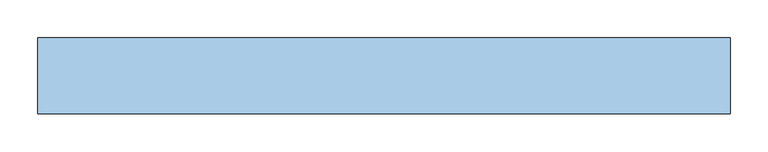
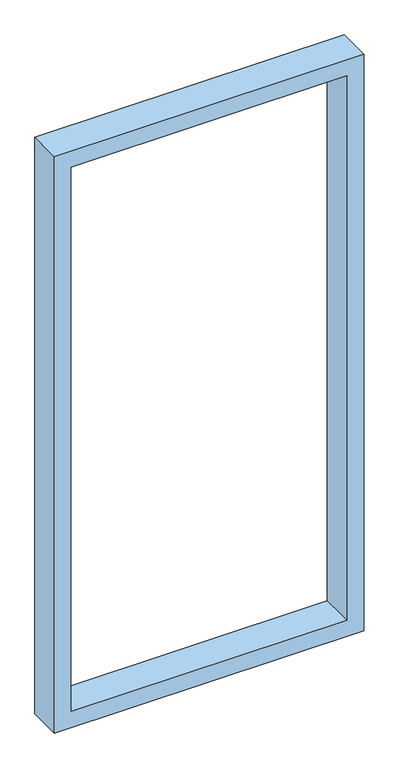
"""IFC4 building model written with IfcOpenShell, lengths in millimetres: window geometry, DFMA Window 1 Bay 2020 V1 : WI.XX, 1 Bay, Type 2."""

from ifc_helpers import new_model, si_unit, frame, origin, place, context, project, spatial, polyline, outline, extrude, source, transform, mapped, element, save


def window_93596043(model_context):
    return source(origin(), model_context, "Body", "SweptSolid", [
        extrude(outline(polyline([(600.0, 457.0), (2400.0, 457.0), (2400.0, -457.0), (600.0, -457.0), (600.0, 457.0)]), holes=[polyline([(2350.0, 407.0), (650.0, 407.0), (650.0, -407.0), (2350.0, -407.0), (2350.0, 407.0)])]), frame((0.0, -65.0, 0.0), z_axis=(0.0, 1.0, 0.0), x_axis=(0.0, 0.0, 1.0)), (0.0, 0.0, 1.0), 100.0),
    ])


if __name__ == "__main__":
    model = new_model("IFC4")
    model_context = context("Model", 3, world=origin())
    ifc_project = project(units=[si_unit("LENGTHUNIT", "METRE", prefix="MILLI")], contexts=[model_context])
    site = spatial("IfcSite", under=ifc_project)
    building = spatial("IfcBuilding", under=site)
    placement = place(None, origin())
    window_shape = window_93596043(model_context)
    element("IfcWindow", 1, ObjectType="DFMA Window 1 Bay 2020 V1 : WI.XX, 1 Bay, Type 2", at=placement, inside=building, context=model_context, shape_type="MappedRepresentation", body=[
        mapped(window_shape, transform((0.0, 0.0, 0.0), x_axis=(1.0, 0.0, 0.0), y_axis=(0.0, 1.0, 0.0), z_axis=(0.0, 0.0, 1.0))),
    ])
    save(model, "model.ifc")
